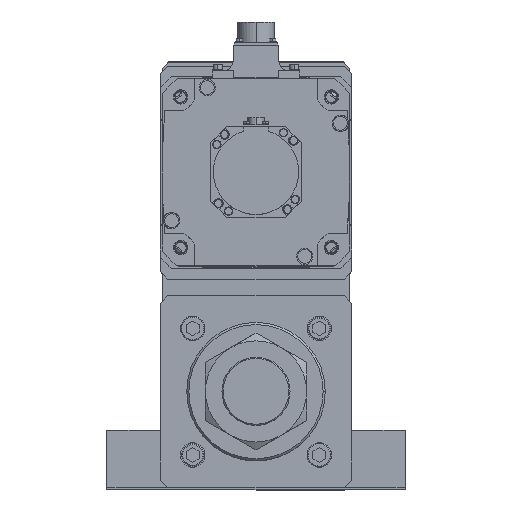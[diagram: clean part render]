
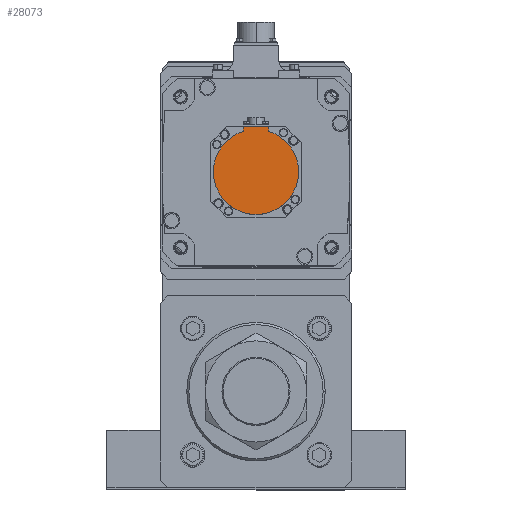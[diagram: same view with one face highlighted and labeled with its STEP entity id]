
A CAD part, top view. The second image highlights one B-rep face of the part: STEP entity #28073.
In plain terms, the highlighted planar face has unit normal (0, 0, 1) as drawn and (0, 0, -1) by its records, which use the part's own axes.
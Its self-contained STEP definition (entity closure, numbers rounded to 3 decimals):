
#1025 = VERTEX_POINT ( 'NONE', #5461 ) ;
#1273 = EDGE_CURVE ( 'NONE', #15452, #16158, #50579, .T. ) ;
#3195 = CARTESIAN_POINT ( 'NONE',  ( 12., -42.5, -178.5 ) ) ;
#4283 = FACE_OUTER_BOUND ( 'NONE', #47903, .T. ) ;
#5461 = CARTESIAN_POINT ( 'NONE',  ( -12., -38.158, -178.5 ) ) ;
#6849 = CARTESIAN_POINT ( 'NONE',  ( 0., 0., -178.5 ) ) ;
#7128 = CARTESIAN_POINT ( 'NONE',  ( 0., -1.249, -178.5 ) ) ;
#7209 = DIRECTION ( 'NONE',  ( 1., 0., 0. ) ) ;
#7454 = CARTESIAN_POINT ( 'NONE',  ( -12., -42.5, -178.5 ) ) ;
#7471 = EDGE_CURVE ( 'NONE', #23363, #43288, #20572, .T. ) ;
#7949 = VECTOR ( 'NONE', #17125, 1000. ) ;
#8060 = CARTESIAN_POINT ( 'NONE',  ( 0., -42.5, -178.5 ) ) ;
#8603 = ORIENTED_EDGE ( 'NONE', *, *, #46569, .F. ) ;
#9693 = VECTOR ( 'NONE', #12176, 1000. ) ;
#12176 = DIRECTION ( 'NONE',  ( -1., 0., 0. ) ) ;
#14187 = AXIS2_PLACEMENT_3D ( 'NONE', #7128, #35358, #51570 ) ;
#15452 = VERTEX_POINT ( 'NONE', #47170 ) ;
#16158 = VERTEX_POINT ( 'NONE', #21999 ) ;
#16359 = ORIENTED_EDGE ( 'NONE', *, *, #47966, .F. ) ;
#16469 = AXIS2_PLACEMENT_3D ( 'NONE', #25815, #29551, #50734 ) ;
#16577 = LINE ( 'NONE', #29372, #37752 ) ;
#16740 = ORIENTED_EDGE ( 'NONE', *, *, #1273, .F. ) ;
#16951 = CARTESIAN_POINT ( 'NONE',  ( -12., -40.329, -178.5 ) ) ;
#17125 = DIRECTION ( 'NONE',  ( 0., 1., 0. ) ) ;
#20112 = LINE ( 'NONE', #16951, #7949 ) ;
#20572 = LINE ( 'NONE', #8060, #9693 ) ;
#21471 = ORIENTED_EDGE ( 'NONE', *, *, #7471, .T. ) ;
#21999 = CARTESIAN_POINT ( 'NONE',  ( 40., 0., -178.5 ) ) ;
#22903 = PLANE ( 'NONE',  #14187 ) ;
#23363 = VERTEX_POINT ( 'NONE', #3195 ) ;
#23453 = ORIENTED_EDGE ( 'NONE', *, *, #27230, .F. ) ;
#23876 = DIRECTION ( 'NONE',  ( 0., 0., 1. ) ) ;
#24212 = CIRCLE ( 'NONE', #34709, 40. ) ;
#24481 = AXIS2_PLACEMENT_3D ( 'NONE', #6849, #31670, #7209 ) ;
#25815 = CARTESIAN_POINT ( 'NONE',  ( 0., 0., -178.5 ) ) ;
#26450 = ORIENTED_EDGE ( 'NONE', *, *, #35329, .T. ) ;
#27230 = EDGE_CURVE ( 'NONE', #16158, #28150, #24212, .T. ) ;
#28038 = CARTESIAN_POINT ( 'NONE',  ( -40., 0., -178.5 ) ) ;
#28073 = ADVANCED_FACE ( 'NONE', ( #4283 ), #22903, .F. ) ;
#28150 = VERTEX_POINT ( 'NONE', #28038 ) ;
#29372 = CARTESIAN_POINT ( 'NONE',  ( 12., -1.249, -178.5 ) ) ;
#29551 = DIRECTION ( 'NONE',  ( 0., 0., 1. ) ) ;
#29754 = DIRECTION ( 'NONE',  ( 0., 1., 0. ) ) ;
#31670 = DIRECTION ( 'NONE',  ( 0., 0., 1. ) ) ;
#34709 = AXIS2_PLACEMENT_3D ( 'NONE', #48432, #23876, #52376 ) ;
#35329 = EDGE_CURVE ( 'NONE', #43288, #1025, #20112, .T. ) ;
#35358 = DIRECTION ( 'NONE',  ( 0., 0., 1. ) ) ;
#37143 = CIRCLE ( 'NONE', #16469, 40. ) ;
#37752 = VECTOR ( 'NONE', #29754, 1000. ) ;
#43288 = VERTEX_POINT ( 'NONE', #7454 ) ;
#46569 = EDGE_CURVE ( 'NONE', #28150, #1025, #37143, .T. ) ;
#47170 = CARTESIAN_POINT ( 'NONE',  ( 12., -38.158, -178.5 ) ) ;
#47903 = EDGE_LOOP ( 'NONE', ( #26450, #8603, #23453, #16740, #16359, #21471 ) ) ;
#47966 = EDGE_CURVE ( 'NONE', #23363, #15452, #16577, .T. ) ;
#48432 = CARTESIAN_POINT ( 'NONE',  ( 0., 0., -178.5 ) ) ;
#50579 = CIRCLE ( 'NONE', #24481, 40. ) ;
#50734 = DIRECTION ( 'NONE',  ( 1., 0., 0. ) ) ;
#51570 = DIRECTION ( 'NONE',  ( 1., 0., 0. ) ) ;
#52376 = DIRECTION ( 'NONE',  ( 1., 0., 0. ) ) ;
